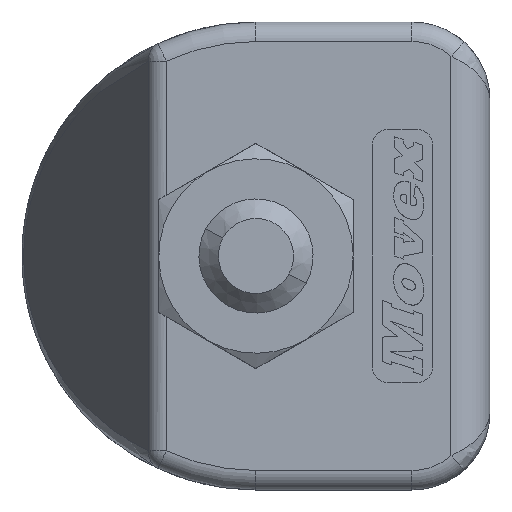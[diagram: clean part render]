
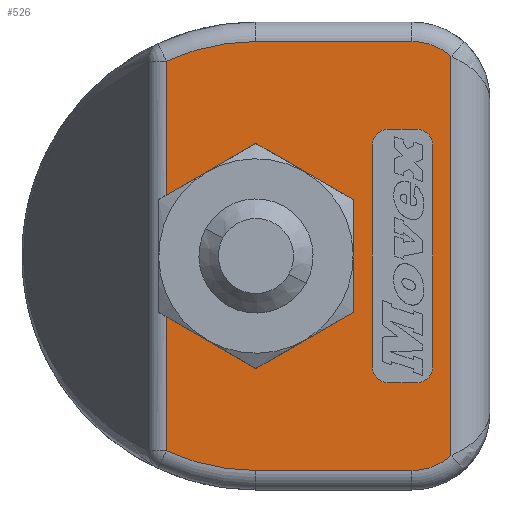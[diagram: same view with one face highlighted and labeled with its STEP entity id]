
A CAD part, left-side view. The second image highlights one B-rep face of the part: STEP entity #526.
In plain terms, the highlighted planar face has unit normal (-1, 0, 0) as drawn and (1, 0, 0) by its records, which use the part's own axes.
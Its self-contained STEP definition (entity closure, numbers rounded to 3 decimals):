
#290=CARTESIAN_POINT('Line Origine',(22.5,16.601,0.)) ;
#294=CARTESIAN_POINT('Vertex',(22.5,16.601,-9.991)) ;
#296=CARTESIAN_POINT('Vertex',(22.5,16.601,-3.117)) ;
#317=CARTESIAN_POINT('Vertex',(22.5,16.601,9.991)) ;
#320=CARTESIAN_POINT('Line Origine',(22.5,16.601,0.)) ;
#324=CARTESIAN_POINT('Vertex',(22.5,16.601,3.117)) ;
#359=CARTESIAN_POINT('Axis2P3D Location',(22.5,2.,0.)) ;
#364=CARTESIAN_POINT('Axis2P3D Location',(22.5,12.,0.)) ;
#368=CARTESIAN_POINT('Vertex',(22.5,12.,11.)) ;
#371=CARTESIAN_POINT('Line Origine',(22.5,8.,11.)) ;
#375=CARTESIAN_POINT('Vertex',(22.5,4.,11.)) ;
#378=CARTESIAN_POINT('Axis2P3D Location',(22.5,4.,8.)) ;
#382=CARTESIAN_POINT('Vertex',(22.5,2.,10.236)) ;
#385=CARTESIAN_POINT('Line Origine',(22.5,2.,0.)) ;
#389=CARTESIAN_POINT('Vertex',(22.5,2.,-10.236)) ;
#392=CARTESIAN_POINT('Axis2P3D Location',(22.5,4.,-8.)) ;
#396=CARTESIAN_POINT('Vertex',(22.5,4.,-11.)) ;
#399=CARTESIAN_POINT('Line Origine',(22.5,8.,-11.)) ;
#403=CARTESIAN_POINT('Vertex',(22.5,12.,-11.)) ;
#406=CARTESIAN_POINT('Axis2P3D Location',(22.5,12.,0.)) ;
#411=CARTESIAN_POINT('Line Origine',(22.5,14.301,-4.445)) ;
#415=CARTESIAN_POINT('Vertex',(22.5,12.,-5.774)) ;
#418=CARTESIAN_POINT('Line Origine',(22.5,9.5,-4.33)) ;
#422=CARTESIAN_POINT('Vertex',(22.5,7.,-2.887)) ;
#425=CARTESIAN_POINT('Line Origine',(22.5,7.,0.)) ;
#429=CARTESIAN_POINT('Vertex',(22.5,7.,2.887)) ;
#432=CARTESIAN_POINT('Line Origine',(22.5,9.5,4.33)) ;
#436=CARTESIAN_POINT('Vertex',(22.5,12.,5.774)) ;
#439=CARTESIAN_POINT('Line Origine',(22.5,14.301,4.445)) ;
#460=CARTESIAN_POINT('Axis2P3D Location',(22.5,5.192,-5.663)) ;
#464=CARTESIAN_POINT('Vertex',(22.5,5.192,-6.512)) ;
#466=CARTESIAN_POINT('Vertex',(22.5,6.041,-5.663)) ;
#469=CARTESIAN_POINT('Line Origine',(22.5,4.484,-6.512)) ;
#473=CARTESIAN_POINT('Vertex',(22.5,3.776,-6.512)) ;
#476=CARTESIAN_POINT('Axis2P3D Location',(22.5,3.776,-5.663)) ;
#480=CARTESIAN_POINT('Vertex',(22.5,2.927,-5.663)) ;
#483=CARTESIAN_POINT('Line Origine',(22.5,2.927,0.)) ;
#487=CARTESIAN_POINT('Vertex',(22.5,2.927,5.663)) ;
#490=CARTESIAN_POINT('Axis2P3D Location',(22.5,3.776,5.663)) ;
#494=CARTESIAN_POINT('Vertex',(22.5,3.776,6.512)) ;
#497=CARTESIAN_POINT('Line Origine',(22.5,4.484,6.512)) ;
#501=CARTESIAN_POINT('Vertex',(22.5,5.192,6.512)) ;
#504=CARTESIAN_POINT('Axis2P3D Location',(22.5,5.192,5.663)) ;
#508=CARTESIAN_POINT('Vertex',(22.5,6.041,5.663)) ;
#511=CARTESIAN_POINT('Line Origine',(22.5,6.041,0.)) ;
#291=DIRECTION('Vector Direction',(0.,0.,1.)) ;
#321=DIRECTION('Vector Direction',(0.,0.,1.)) ;
#360=DIRECTION('Axis2P3D Direction',(1.,0.,0.)) ;
#361=DIRECTION('Axis2P3D XDirection',(0.,1.,0.)) ;
#365=DIRECTION('Axis2P3D Direction',(1.,0.,0.)) ;
#372=DIRECTION('Vector Direction',(0.,1.,0.)) ;
#379=DIRECTION('Axis2P3D Direction',(1.,0.,0.)) ;
#386=DIRECTION('Vector Direction',(0.,0.,1.)) ;
#393=DIRECTION('Axis2P3D Direction',(1.,0.,0.)) ;
#400=DIRECTION('Vector Direction',(0.,1.,0.)) ;
#407=DIRECTION('Axis2P3D Direction',(1.,0.,0.)) ;
#412=DIRECTION('Vector Direction',(0.,0.866,0.5)) ;
#419=DIRECTION('Vector Direction',(0.,0.866,-0.5)) ;
#426=DIRECTION('Vector Direction',(0.,0.,-1.)) ;
#433=DIRECTION('Vector Direction',(0.,-0.866,-0.5)) ;
#440=DIRECTION('Vector Direction',(0.,-0.866,0.5)) ;
#461=DIRECTION('Axis2P3D Direction',(1.,0.,0.)) ;
#470=DIRECTION('Vector Direction',(0.,-1.,0.)) ;
#477=DIRECTION('Axis2P3D Direction',(1.,0.,0.)) ;
#484=DIRECTION('Vector Direction',(0.,0.,1.)) ;
#491=DIRECTION('Axis2P3D Direction',(1.,0.,0.)) ;
#498=DIRECTION('Vector Direction',(0.,1.,0.)) ;
#505=DIRECTION('Axis2P3D Direction',(1.,0.,0.)) ;
#512=DIRECTION('Vector Direction',(0.,0.,-1.)) ;
#362=AXIS2_PLACEMENT_3D('Plane Axis2P3D',#359,#360,#361) ;
#366=AXIS2_PLACEMENT_3D('Circle Axis2P3D',#364,#365,$) ;
#380=AXIS2_PLACEMENT_3D('Circle Axis2P3D',#378,#379,$) ;
#394=AXIS2_PLACEMENT_3D('Circle Axis2P3D',#392,#393,$) ;
#408=AXIS2_PLACEMENT_3D('Circle Axis2P3D',#406,#407,$) ;
#462=AXIS2_PLACEMENT_3D('Circle Axis2P3D',#460,#461,$) ;
#478=AXIS2_PLACEMENT_3D('Circle Axis2P3D',#476,#477,$) ;
#492=AXIS2_PLACEMENT_3D('Circle Axis2P3D',#490,#491,$) ;
#506=AXIS2_PLACEMENT_3D('Circle Axis2P3D',#504,#505,$) ;
#445=ORIENTED_EDGE('',*,*,#370,.F.) ;
#446=ORIENTED_EDGE('',*,*,#377,.F.) ;
#447=ORIENTED_EDGE('',*,*,#384,.F.) ;
#448=ORIENTED_EDGE('',*,*,#391,.F.) ;
#449=ORIENTED_EDGE('',*,*,#398,.T.) ;
#450=ORIENTED_EDGE('',*,*,#405,.T.) ;
#451=ORIENTED_EDGE('',*,*,#410,.T.) ;
#452=ORIENTED_EDGE('',*,*,#298,.T.) ;
#453=ORIENTED_EDGE('',*,*,#417,.F.) ;
#454=ORIENTED_EDGE('',*,*,#424,.F.) ;
#455=ORIENTED_EDGE('',*,*,#431,.F.) ;
#456=ORIENTED_EDGE('',*,*,#438,.F.) ;
#457=ORIENTED_EDGE('',*,*,#443,.F.) ;
#458=ORIENTED_EDGE('',*,*,#326,.T.) ;
#517=ORIENTED_EDGE('',*,*,#468,.F.) ;
#518=ORIENTED_EDGE('',*,*,#475,.F.) ;
#519=ORIENTED_EDGE('',*,*,#482,.F.) ;
#520=ORIENTED_EDGE('',*,*,#489,.F.) ;
#521=ORIENTED_EDGE('',*,*,#496,.F.) ;
#522=ORIENTED_EDGE('',*,*,#503,.F.) ;
#523=ORIENTED_EDGE('',*,*,#510,.F.) ;
#524=ORIENTED_EDGE('',*,*,#515,.F.) ;
#525=FACE_BOUND('',#516,.T.) ;
#292=VECTOR('Line Direction',#291,1.) ;
#322=VECTOR('Line Direction',#321,1.) ;
#373=VECTOR('Line Direction',#372,1.) ;
#387=VECTOR('Line Direction',#386,1.) ;
#401=VECTOR('Line Direction',#400,1.) ;
#413=VECTOR('Line Direction',#412,1.) ;
#420=VECTOR('Line Direction',#419,1.) ;
#427=VECTOR('Line Direction',#426,1.) ;
#434=VECTOR('Line Direction',#433,1.) ;
#441=VECTOR('Line Direction',#440,1.) ;
#471=VECTOR('Line Direction',#470,1.) ;
#485=VECTOR('Line Direction',#484,1.) ;
#499=VECTOR('Line Direction',#498,1.) ;
#513=VECTOR('Line Direction',#512,1.) ;
#526=ADVANCED_FACE('PartBody',(#459,#525),#363,.T.) ;
#367=CIRCLE('generated circle',#366,11.) ;
#381=CIRCLE('generated circle',#380,3.) ;
#395=CIRCLE('generated circle',#394,3.) ;
#409=CIRCLE('generated circle',#408,11.) ;
#463=CIRCLE('generated circle',#462,0.849) ;
#479=CIRCLE('generated circle',#478,0.849) ;
#493=CIRCLE('generated circle',#492,0.849) ;
#507=CIRCLE('generated circle',#506,0.849) ;
#298=EDGE_CURVE('',#295,#297,#293,.T.) ;
#326=EDGE_CURVE('',#325,#318,#323,.T.) ;
#370=EDGE_CURVE('',#369,#318,#367,.F.) ;
#377=EDGE_CURVE('',#376,#369,#374,.T.) ;
#384=EDGE_CURVE('',#383,#376,#381,.F.) ;
#391=EDGE_CURVE('',#390,#383,#388,.T.) ;
#398=EDGE_CURVE('',#390,#397,#395,.T.) ;
#405=EDGE_CURVE('',#397,#404,#402,.T.) ;
#410=EDGE_CURVE('',#404,#295,#409,.T.) ;
#417=EDGE_CURVE('',#416,#297,#414,.T.) ;
#424=EDGE_CURVE('',#423,#416,#421,.T.) ;
#431=EDGE_CURVE('',#430,#423,#428,.T.) ;
#438=EDGE_CURVE('',#437,#430,#435,.T.) ;
#443=EDGE_CURVE('',#325,#437,#442,.T.) ;
#468=EDGE_CURVE('',#465,#467,#463,.T.) ;
#475=EDGE_CURVE('',#474,#465,#472,.F.) ;
#482=EDGE_CURVE('',#481,#474,#479,.T.) ;
#489=EDGE_CURVE('',#488,#481,#486,.F.) ;
#496=EDGE_CURVE('',#495,#488,#493,.T.) ;
#503=EDGE_CURVE('',#502,#495,#500,.F.) ;
#510=EDGE_CURVE('',#509,#502,#507,.T.) ;
#515=EDGE_CURVE('',#467,#509,#514,.F.) ;
#444=EDGE_LOOP('',(#445,#446,#447,#448,#449,#450,#451,#452,#453,#454,#455,#456,#457,#458)) ;
#516=EDGE_LOOP('',(#517,#518,#519,#520,#521,#522,#523,#524)) ;
#459=FACE_OUTER_BOUND('',#444,.T.) ;
#293=LINE('Line',#290,#292) ;
#323=LINE('Line',#320,#322) ;
#374=LINE('Line',#371,#373) ;
#388=LINE('Line',#385,#387) ;
#402=LINE('Line',#399,#401) ;
#414=LINE('Line',#411,#413) ;
#421=LINE('Line',#418,#420) ;
#428=LINE('Line',#425,#427) ;
#435=LINE('Line',#432,#434) ;
#442=LINE('Line',#439,#441) ;
#472=LINE('Line',#469,#471) ;
#486=LINE('Line',#483,#485) ;
#500=LINE('Line',#497,#499) ;
#514=LINE('Line',#511,#513) ;
#363=PLANE('',#362) ;
#295=VERTEX_POINT('',#294) ;
#297=VERTEX_POINT('',#296) ;
#318=VERTEX_POINT('',#317) ;
#325=VERTEX_POINT('',#324) ;
#369=VERTEX_POINT('',#368) ;
#376=VERTEX_POINT('',#375) ;
#383=VERTEX_POINT('',#382) ;
#390=VERTEX_POINT('',#389) ;
#397=VERTEX_POINT('',#396) ;
#404=VERTEX_POINT('',#403) ;
#416=VERTEX_POINT('',#415) ;
#423=VERTEX_POINT('',#422) ;
#430=VERTEX_POINT('',#429) ;
#437=VERTEX_POINT('',#436) ;
#465=VERTEX_POINT('',#464) ;
#467=VERTEX_POINT('',#466) ;
#474=VERTEX_POINT('',#473) ;
#481=VERTEX_POINT('',#480) ;
#488=VERTEX_POINT('',#487) ;
#495=VERTEX_POINT('',#494) ;
#502=VERTEX_POINT('',#501) ;
#509=VERTEX_POINT('',#508) ;
